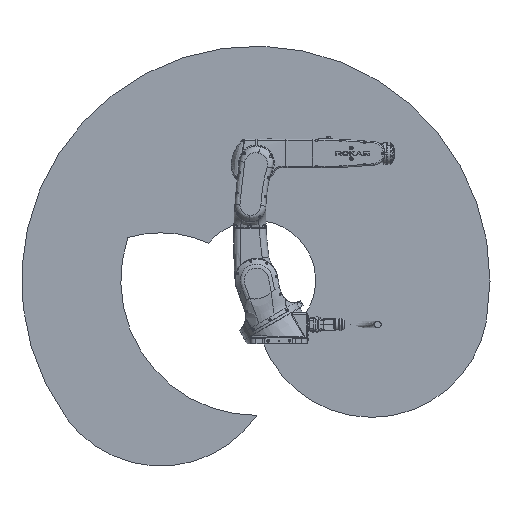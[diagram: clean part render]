
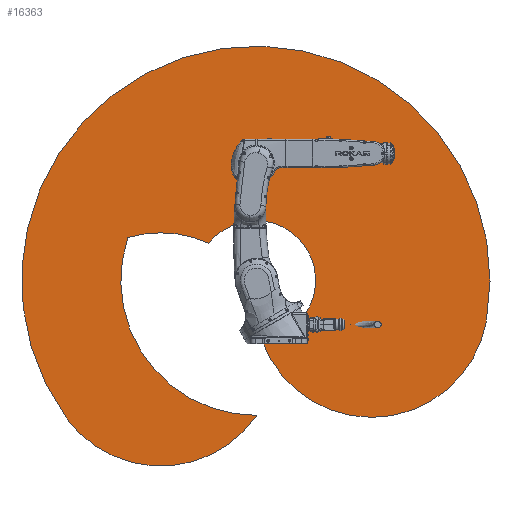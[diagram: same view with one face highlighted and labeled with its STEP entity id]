
A CAD part, front view. The second image highlights one B-rep face of the part: STEP entity #16363.
In plain terms, the highlighted planar face has unit normal (0, -1, 0).
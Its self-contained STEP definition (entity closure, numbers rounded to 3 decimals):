
#16363=ADVANCED_FACE('',(#20679),#17637,.T.);
#17637=PLANE('',#61870);
#20679=FACE_OUTER_BOUND('',#24877,.T.);
#24877=EDGE_LOOP('',(#40596,#40597,#40598,#40599,#40600,#40601));
#40596=ORIENTED_EDGE('',*,*,#53394,.T.);
#40597=ORIENTED_EDGE('',*,*,#53395,.T.);
#40598=ORIENTED_EDGE('',*,*,#53396,.T.);
#40599=ORIENTED_EDGE('',*,*,#53397,.T.);
#40600=ORIENTED_EDGE('',*,*,#53398,.T.);
#40601=ORIENTED_EDGE('',*,*,#53399,.T.);
#45529=VERTEX_POINT('',#140970);
#45530=VERTEX_POINT('',#140971);
#45531=VERTEX_POINT('',#140973);
#45532=VERTEX_POINT('',#140975);
#45533=VERTEX_POINT('',#140977);
#45534=VERTEX_POINT('',#140979);
#53394=EDGE_CURVE('',#45529,#45530,#56193,.T.);
#53395=EDGE_CURVE('',#45530,#45531,#56194,.T.);
#53396=EDGE_CURVE('',#45531,#45532,#56195,.T.);
#53397=EDGE_CURVE('',#45532,#45533,#56196,.T.);
#53398=EDGE_CURVE('',#45533,#45534,#56197,.T.);
#53399=EDGE_CURVE('',#45534,#45529,#56198,.T.);
#56193=CIRCLE('',#61864,223.902);
#56194=CIRCLE('',#61865,436.406);
#56195=CIRCLE('',#61866,876.406);
#56196=CIRCLE('',#61867,436.406);
#56197=CIRCLE('',#61868,505.197);
#56198=CIRCLE('',#61869,436.406);
#61864=AXIS2_PLACEMENT_3D('',#140969,#76214,#76215);
#61865=AXIS2_PLACEMENT_3D('',#140972,#76216,#76217);
#61866=AXIS2_PLACEMENT_3D('',#140974,#76218,#76219);
#61867=AXIS2_PLACEMENT_3D('',#140976,#76220,#76221);
#61868=AXIS2_PLACEMENT_3D('',#140978,#76222,#76223);
#61869=AXIS2_PLACEMENT_3D('',#140980,#76224,#76225);
#61870=AXIS2_PLACEMENT_3D('',#140981,#76226,#76227);
#76214=DIRECTION('',(0.,1.,0.));
#76215=DIRECTION('',(1.,0.,0.));
#76216=DIRECTION('',(0.,-1.,0.));
#76217=DIRECTION('',(1.,0.,0.));
#76218=DIRECTION('',(0.,-1.,0.));
#76219=DIRECTION('',(1.,0.,0.));
#76220=DIRECTION('',(0.,-1.,0.));
#76221=DIRECTION('',(1.,0.,0.));
#76222=DIRECTION('',(0.,1.,0.));
#76223=DIRECTION('',(1.,0.,0.));
#76224=DIRECTION('',(0.,1.,0.));
#76225=DIRECTION('',(1.,0.,0.));
#76226=DIRECTION('',(0.,-1.,0.));
#76227=DIRECTION('',(0.,0.,-1.));
#140969=CARTESIAN_POINT('',(3537.069,5852.28,0.));
#140970=CARTESIAN_POINT('',(3361.382,5852.28,138.802));
#140971=CARTESIAN_POINT('',(3559.266,5852.28,-222.799));
#140972=CARTESIAN_POINT('',(3970.385,5852.28,-76.405));
#140973=CARTESIAN_POINT('',(4400.161,5852.28,-152.186));
#140974=CARTESIAN_POINT('',(3537.069,5852.28,0.));
#140975=CARTESIAN_POINT('',(2828.042,5852.28,-515.138));
#140976=CARTESIAN_POINT('',(3181.102,5852.28,-258.626));
#140977=CARTESIAN_POINT('',(3541.187,5852.28,-505.18));
#140978=CARTESIAN_POINT('',(3537.069,5852.28,0.));
#140979=CARTESIAN_POINT('',(3057.887,5852.28,160.025));
#140980=CARTESIAN_POINT('',(3181.102,5852.28,-258.626));
#140981=CARTESIAN_POINT('',(3359.086,5852.28,-129.313));
